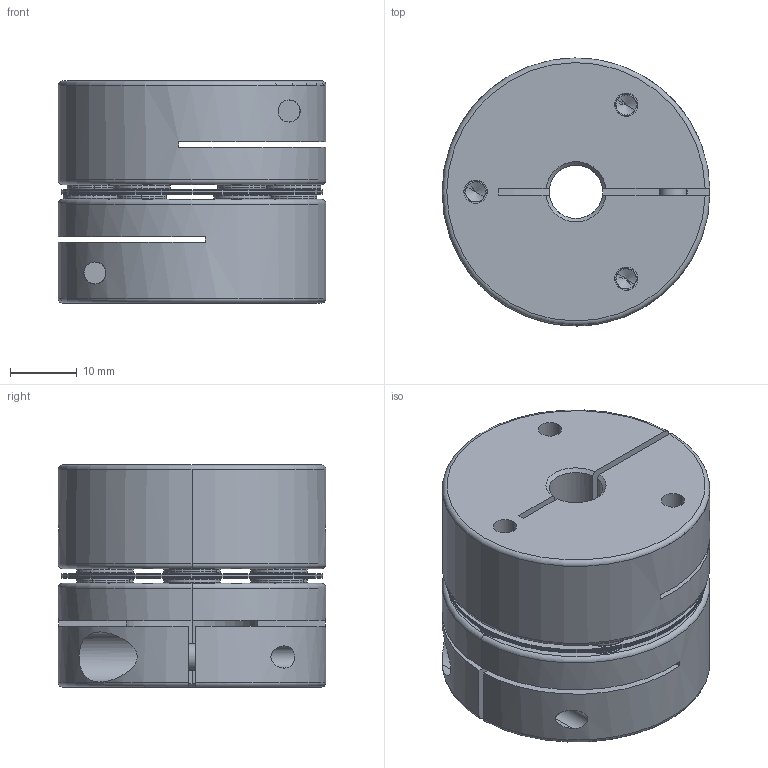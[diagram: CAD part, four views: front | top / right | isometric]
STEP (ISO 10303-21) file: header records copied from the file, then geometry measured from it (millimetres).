
FILE_DESCRIPTION (( 'STEP AP203' ), '1' );
FILE_NAME ('SADS-40C.STEP', '2020-09-10T09:33:53', ( '' ), ( '' ), 'SwSTEP 2.0', 'SolidWorks 2017', '' );
FILE_SCHEMA (( 'CONFIG_CONTROL_DESIGN' ));
Length unit declared in the file: metre
Products named in the file (1): SADS-40C
Bounding box: 40 x 40 x 33.2 mm (x, y, z)
Volume: 31266.4 mm3; surface area: 24344.4 mm2
Topology: 26 solids, 26 shells, 630 faces, 1416 edges, 840 vertices
Faces by surface type: cylinder 233, plane 180, cone 115, torus 102
Entity records: 17970 total; most frequent: DIRECTION 3421, CARTESIAN_POINT 3207, ORIENTED_EDGE 2784, AXIS2_PLACEMENT_3D 1422, EDGE_CURVE 1392, VERTEX_POINT 840, CIRCLE 791, EDGE_LOOP 772
